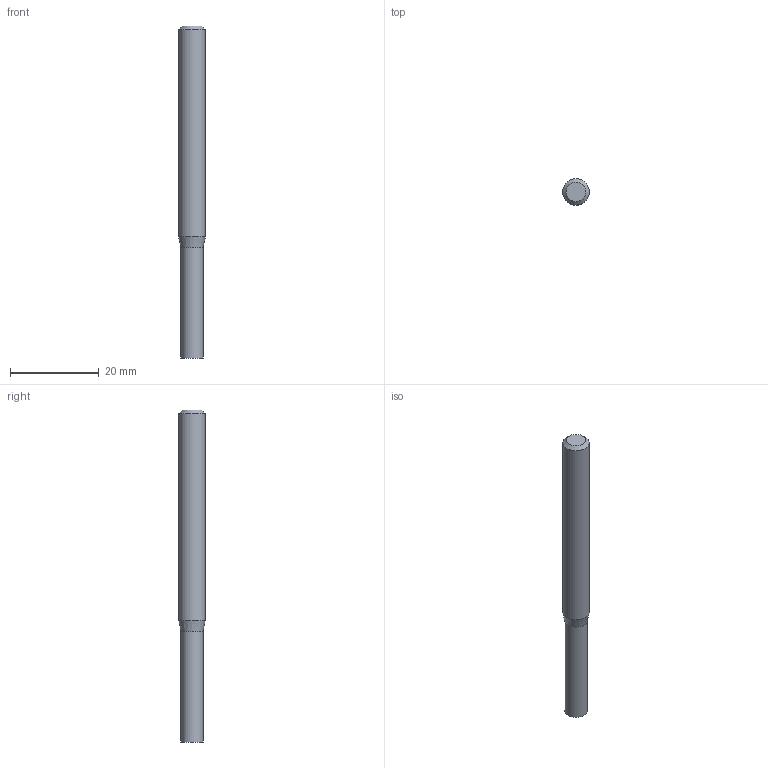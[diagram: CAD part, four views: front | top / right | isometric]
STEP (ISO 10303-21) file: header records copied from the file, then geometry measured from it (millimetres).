
FILE_DESCRIPTION((''),'2;1');
FILE_NAME('C:\Users\nsx150\AppData\Local\Temp\Mastercam 2021\AMKO7YXE3Q\TEMP.step','2024-03-15T17:56:29',(''),(''),'STEP Write','Mastercam 2021 ... CNC Software, Inc.','');
FILE_SCHEMA(('AUTOMOTIVE_DESIGN'));
Length unit declared in the file: millimetre
Products named in the file (1): None
Bounding box: 6 x 6 x 75 mm (x, y, z)
Volume: 1888.6 mm3; surface area: 1409.9 mm2
Topology: 2 solids, 2 shells, 8 faces, 10 edges, 6 vertices
Faces by surface type: plane 4, cylinder 2, cone 2
Full cylindrical faces by diameter (mm): 5 x1, 6 x1
Entity records: 190 total; most frequent: DIRECTION 32, CARTESIAN_POINT 22, AXIS2_PLACEMENT_3D 16, ORIENTED_EDGE 12, EDGE_LOOP 12, STYLED_ITEM 11, ADVANCED_FACE 8, VERTEX_POINT 6
